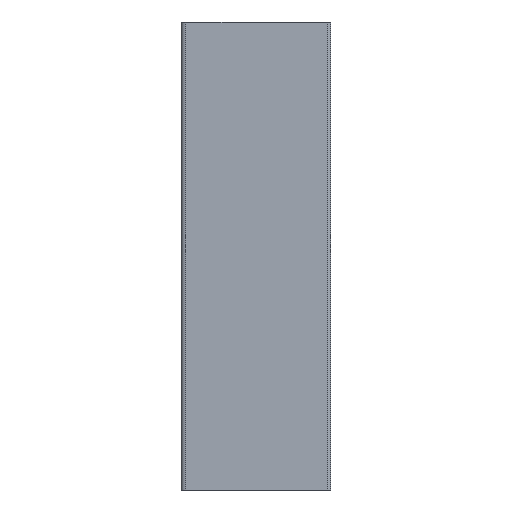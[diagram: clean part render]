
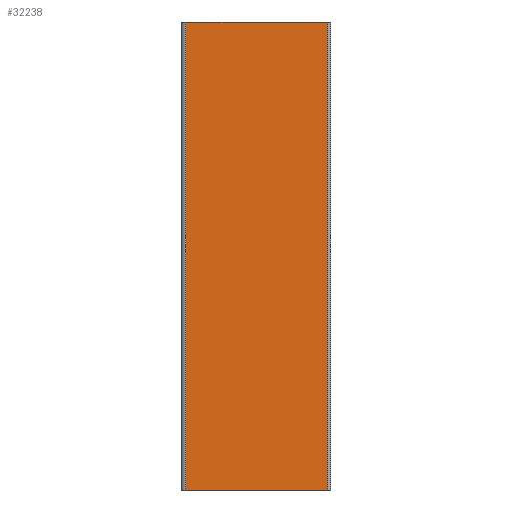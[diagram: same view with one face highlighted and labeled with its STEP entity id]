
A CAD part, left-side view. The second image highlights one B-rep face of the part: STEP entity #32238.
In plain terms, the highlighted planar face has unit normal (-1, 0, 0).
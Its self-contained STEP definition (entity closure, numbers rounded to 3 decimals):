
#3299 = DIRECTION ( 'NONE',  ( 0., -1., 0. ) ) ;
#3310 = EDGE_LOOP ( 'NONE', ( #15302, #40508, #41361, #47629 ) ) ;
#4088 = CARTESIAN_POINT ( 'NONE',  ( 52.013, 217.709, 100. ) ) ;
#4597 = VERTEX_POINT ( 'NONE', #12615 ) ;
#6382 = VERTEX_POINT ( 'NONE', #39307 ) ;
#6599 = DIRECTION ( 'NONE',  ( 0., 0., -1. ) ) ;
#7597 = LINE ( 'NONE', #35461, #27210 ) ;
#7612 = PLANE ( 'NONE',  #14239 ) ;
#9278 = CARTESIAN_POINT ( 'NONE',  ( 52.013, 217.709, 100. ) ) ;
#11490 = DIRECTION ( 'NONE',  ( 1., 0., 0. ) ) ;
#11618 = CARTESIAN_POINT ( 'NONE',  ( 52.013, 217.709, 0. ) ) ;
#12313 = EDGE_CURVE ( 'NONE', #4597, #6382, #18468, .T. ) ;
#12615 = CARTESIAN_POINT ( 'NONE',  ( 52.013, 248.009, 100. ) ) ;
#14239 = AXIS2_PLACEMENT_3D ( 'NONE', #4088, #11490, #37185 ) ;
#15302 = ORIENTED_EDGE ( 'NONE', *, *, #39501, .T. ) ;
#17891 = VECTOR ( 'NONE', #47706, 1000. ) ;
#18468 = LINE ( 'NONE', #43255, #45482 ) ;
#19651 = VERTEX_POINT ( 'NONE', #9278 ) ;
#21648 = CARTESIAN_POINT ( 'NONE',  ( 52.013, 217.709, 100. ) ) ;
#24503 = FACE_OUTER_BOUND ( 'NONE', #3310, .T. ) ;
#25174 = LINE ( 'NONE', #21648, #43526 ) ;
#27210 = VECTOR ( 'NONE', #42831, 1000. ) ;
#27721 = LINE ( 'NONE', #40308, #17891 ) ;
#28080 = EDGE_CURVE ( 'NONE', #19651, #41392, #27721, .T. ) ;
#30345 = EDGE_CURVE ( 'NONE', #4597, #19651, #25174, .T. ) ;
#32238 = ADVANCED_FACE ( 'NONE', ( #24503 ), #7612, .F. ) ;
#35461 = CARTESIAN_POINT ( 'NONE',  ( 52.013, 217.709, 0. ) ) ;
#37185 = DIRECTION ( 'NONE',  ( 0., 0., -1. ) ) ;
#39307 = CARTESIAN_POINT ( 'NONE',  ( 52.013, 248.009, 0. ) ) ;
#39501 = EDGE_CURVE ( 'NONE', #6382, #41392, #7597, .T. ) ;
#40308 = CARTESIAN_POINT ( 'NONE',  ( 52.013, 217.709, 100. ) ) ;
#40508 = ORIENTED_EDGE ( 'NONE', *, *, #28080, .F. ) ;
#41361 = ORIENTED_EDGE ( 'NONE', *, *, #30345, .F. ) ;
#41392 = VERTEX_POINT ( 'NONE', #11618 ) ;
#42831 = DIRECTION ( 'NONE',  ( 0., -1., 0. ) ) ;
#43255 = CARTESIAN_POINT ( 'NONE',  ( 52.013, 248.009, 100. ) ) ;
#43526 = VECTOR ( 'NONE', #3299, 1000. ) ;
#45482 = VECTOR ( 'NONE', #6599, 1000. ) ;
#47629 = ORIENTED_EDGE ( 'NONE', *, *, #12313, .T. ) ;
#47706 = DIRECTION ( 'NONE',  ( 0., 0., -1. ) ) ;
